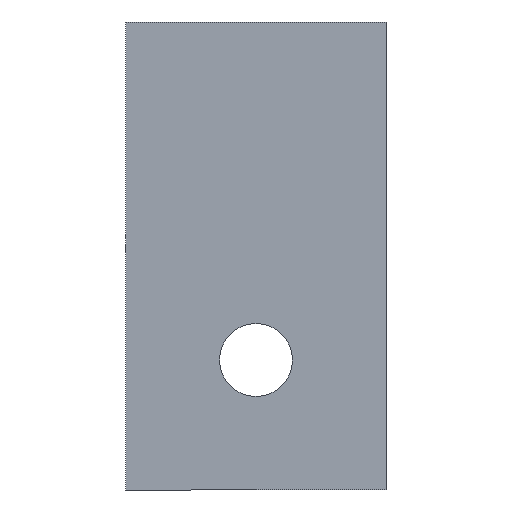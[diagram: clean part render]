
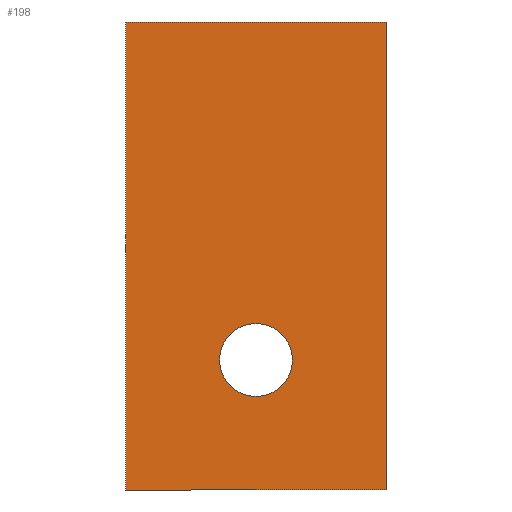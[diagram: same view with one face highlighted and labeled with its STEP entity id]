
A CAD part, front view. The second image highlights one B-rep face of the part: STEP entity #198.
In plain terms, the highlighted planar face has unit normal (0, -1, 0).
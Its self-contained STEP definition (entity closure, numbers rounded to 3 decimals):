
#8 = FACE_OUTER_BOUND ( 'NONE', #205, .T. ) ;
#13 = VERTEX_POINT ( 'NONE', #226 ) ;
#17 = DIRECTION ( 'NONE',  ( 0., -1., 0. ) ) ;
#20 = ORIENTED_EDGE ( 'NONE', *, *, #117, .T. ) ;
#24 = ORIENTED_EDGE ( 'NONE', *, *, #206, .F. ) ;
#28 = AXIS2_PLACEMENT_3D ( 'NONE', #158, #307, #213 ) ;
#33 = ORIENTED_EDGE ( 'NONE', *, *, #295, .T. ) ;
#35 = CARTESIAN_POINT ( 'NONE',  ( 25., 0., -58. ) ) ;
#36 = CARTESIAN_POINT ( 'NONE',  ( 25., 0., -72. ) ) ;
#39 = CARTESIAN_POINT ( 'NONE',  ( 0., 0., -90. ) ) ;
#45 = CARTESIAN_POINT ( 'NONE',  ( 50., 0., 0. ) ) ;
#65 = CARTESIAN_POINT ( 'NONE',  ( 0., 0., -90. ) ) ;
#72 = CIRCLE ( 'NONE', #28, 7. ) ;
#73 = EDGE_CURVE ( 'NONE', #259, #13, #188, .T. ) ;
#77 = VERTEX_POINT ( 'NONE', #36 ) ;
#90 = AXIS2_PLACEMENT_3D ( 'NONE', #284, #181, #283 ) ;
#108 = FACE_BOUND ( 'NONE', #148, .T. ) ;
#112 = CARTESIAN_POINT ( 'NONE',  ( 0., 0., 0. ) ) ;
#117 = EDGE_CURVE ( 'NONE', #120, #77, #221, .T. ) ;
#120 = VERTEX_POINT ( 'NONE', #35 ) ;
#136 = CARTESIAN_POINT ( 'NONE',  ( 0., 0., 0. ) ) ;
#142 = ORIENTED_EDGE ( 'NONE', *, *, #281, .F. ) ;
#144 = VECTOR ( 'NONE', #164, 1000. ) ;
#148 = EDGE_LOOP ( 'NONE', ( #33, #20 ) ) ;
#158 = CARTESIAN_POINT ( 'NONE',  ( 25., 0., -65. ) ) ;
#160 = DIRECTION ( 'NONE',  ( 0., 0., -1. ) ) ;
#162 = DIRECTION ( 'NONE',  ( 0., 0., -1. ) ) ;
#164 = DIRECTION ( 'NONE',  ( -1., 0., 0. ) ) ;
#165 = PLANE ( 'NONE',  #241 ) ;
#181 = DIRECTION ( 'NONE',  ( 0., 1., 0. ) ) ;
#188 = LINE ( 'NONE', #212, #232 ) ;
#198 = ADVANCED_FACE ( 'NONE', ( #8, #108 ), #165, .T. ) ;
#203 = VECTOR ( 'NONE', #244, 1000. ) ;
#205 = EDGE_LOOP ( 'NONE', ( #24, #142, #222, #301 ) ) ;
#206 = EDGE_CURVE ( 'NONE', #272, #259, #252, .T. ) ;
#210 = DIRECTION ( 'NONE',  ( 1., 0., 0. ) ) ;
#212 = CARTESIAN_POINT ( 'NONE',  ( 0., 0., 0. ) ) ;
#213 = DIRECTION ( 'NONE',  ( 0., 0., 1. ) ) ;
#218 = EDGE_CURVE ( 'NONE', #13, #279, #298, .T. ) ;
#221 = CIRCLE ( 'NONE', #90, 7. ) ;
#222 = ORIENTED_EDGE ( 'NONE', *, *, #218, .F. ) ;
#226 = CARTESIAN_POINT ( 'NONE',  ( 50., 0., 0. ) ) ;
#232 = VECTOR ( 'NONE', #210, 1000. ) ;
#241 = AXIS2_PLACEMENT_3D ( 'NONE', #112, #17, #160 ) ;
#244 = DIRECTION ( 'NONE',  ( 0., 0., 1. ) ) ;
#252 = LINE ( 'NONE', #309, #203 ) ;
#259 = VERTEX_POINT ( 'NONE', #136 ) ;
#266 = LINE ( 'NONE', #65, #144 ) ;
#269 = CARTESIAN_POINT ( 'NONE',  ( 50., 0., -90. ) ) ;
#272 = VERTEX_POINT ( 'NONE', #39 ) ;
#279 = VERTEX_POINT ( 'NONE', #269 ) ;
#281 = EDGE_CURVE ( 'NONE', #279, #272, #266, .T. ) ;
#283 = DIRECTION ( 'NONE',  ( 0., 0., 1. ) ) ;
#284 = CARTESIAN_POINT ( 'NONE',  ( 25., 0., -65. ) ) ;
#285 = VECTOR ( 'NONE', #162, 1000. ) ;
#295 = EDGE_CURVE ( 'NONE', #77, #120, #72, .T. ) ;
#298 = LINE ( 'NONE', #45, #285 ) ;
#301 = ORIENTED_EDGE ( 'NONE', *, *, #73, .F. ) ;
#307 = DIRECTION ( 'NONE',  ( 0., 1., 0. ) ) ;
#309 = CARTESIAN_POINT ( 'NONE',  ( 0., 0., 0. ) ) ;
